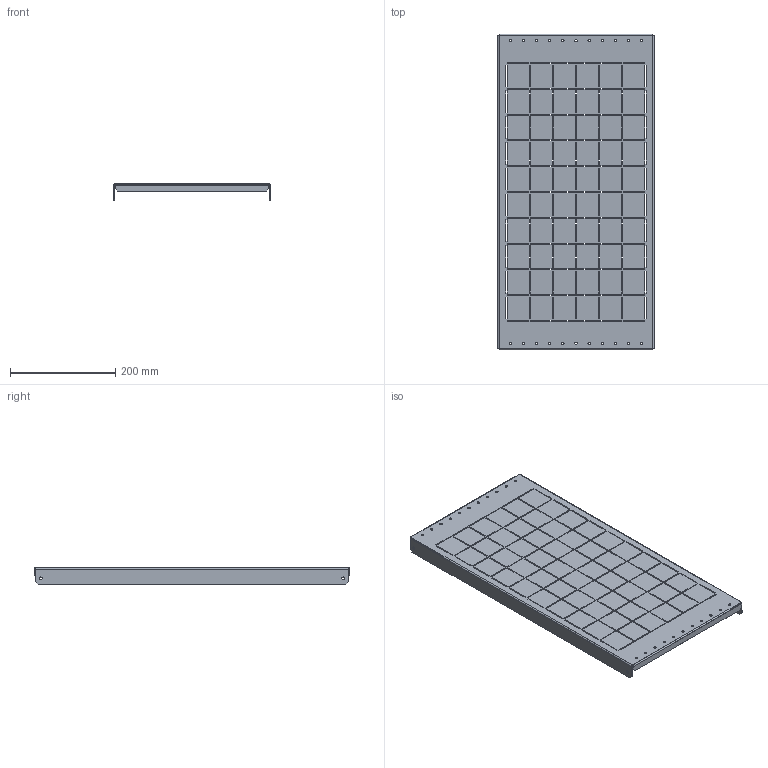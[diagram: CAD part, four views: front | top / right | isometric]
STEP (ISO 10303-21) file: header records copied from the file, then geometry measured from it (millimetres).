
FILE_DESCRIPTION (( 'STEP AP203' ), '1' );
FILE_NAME ('MA1.800.060406.04.01 Ïàíåëè áîêîâûå äëÿ ñåêöèîíèðîâàíèÿ Â600 Ã400 ìì.STEP', '2024-12-02T13:58:49', ( '' ), ( '' ), 'SwSTEP 2.0', 'SolidWorks 2021', '' );
FILE_SCHEMA (( 'CONFIG_CONTROL_DESIGN' ));
Length unit declared in the file: millimetre
Products named in the file (1): MA1.800.060406.04.01 Ïàíåëè áîêîâûå äëÿ ñåêöèîíèðîâàíèÿ Â600 Ã400 ìì
Bounding box: 297 x 600 x 31 mm (x, y, z)
Volume: 311325.9 mm3; surface area: 436114.3 mm2
Topology: 1 solids, 1 shells, 616 faces, 1810 edges, 1196 vertices
Faces by surface type: plane 582, cylinder 34
Full cylindrical faces by diameter (mm): 4.5 x22, 5.5 x4
Entity records: 20661 total; most frequent: CARTESIAN_POINT 3597, ORIENTED_EDGE 3568, DIRECTION 3086, EDGE_CURVE 1784, VECTOR 1716, LINE 1716, VERTEX_POINT 1196, EDGE_LOOP 966
